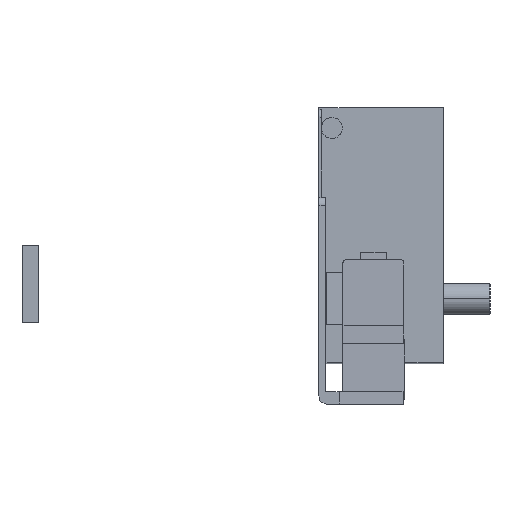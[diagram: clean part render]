
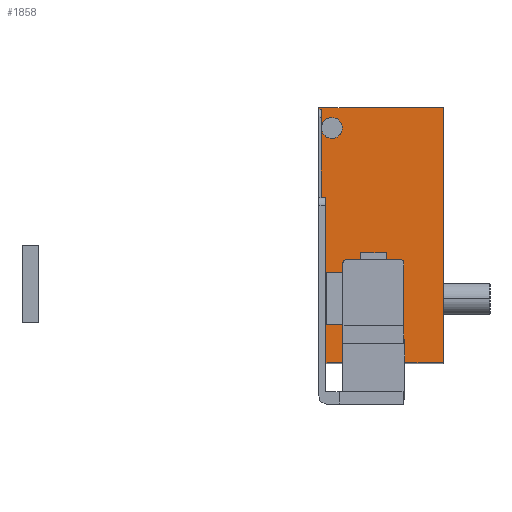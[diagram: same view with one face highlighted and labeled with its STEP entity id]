
A CAD part, front view. The second image highlights one B-rep face of the part: STEP entity #1858.
In plain terms, the highlighted planar face has unit normal (0, -1, 0.007).
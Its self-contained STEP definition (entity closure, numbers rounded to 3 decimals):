
#64 = CARTESIAN_POINT ( 'NONE',  ( 25.75, 620.942, -31.446 ) ) ;
#65 = CARTESIAN_POINT ( 'NONE',  ( 26.336, 620.942, -31.446 ) ) ;
#66 = CARTESIAN_POINT ( 'NONE',  ( 26.75, 620.94, -31.86 ) ) ;
#67 = CARTESIAN_POINT ( 'NONE',  ( 26.75, 620.936, -32.446 ) ) ;
#68 = CARTESIAN_POINT ( 'NONE',  ( 7.25, 620.936, -32.446 ) ) ;
#69 = CARTESIAN_POINT ( 'NONE',  ( 7.25, 620.94, -31.86 ) ) ;
#70 = CARTESIAN_POINT ( 'NONE',  ( 7.664, 620.942, -31.446 ) ) ;
#71 = CARTESIAN_POINT ( 'NONE',  ( 8.25, 620.942, -31.446 ) ) ;
#74 = CARTESIAN_POINT ( 'NONE',  ( 8., 620.841, -46.626 ) ) ;
#75 = DIRECTION ( 'NONE',  ( 0., -0.007, -1. ) ) ;
#76 = CARTESIAN_POINT ( 'NONE',  ( 2.5, 620.988, -24.626 ) ) ;
#77 = DIRECTION ( 'NONE',  ( -1., 0., 0. ) ) ;
#78 = CARTESIAN_POINT ( 'NONE',  ( 0., 620.841, -46.626 ) ) ;
#79 = DIRECTION ( 'NONE',  ( 0., 0.007, 1. ) ) ;
#80 = CARTESIAN_POINT ( 'NONE',  ( 7.25, 620.908, -36.636 ) ) ;
#81 = DIRECTION ( 'NONE',  ( 1., 0., 0. ) ) ;
#82 = CARTESIAN_POINT ( 'NONE',  ( 38.8, 620.908, -36.636 ) ) ;
#83 = DIRECTION ( 'NONE',  ( 1., 0., 0. ) ) ;
#84 = CARTESIAN_POINT ( 'NONE',  ( 38.8, 621.439, 42.729 ) ) ;
#85 = DIRECTION ( 'NONE',  ( -1., 0., 0. ) ) ;
#86 = CARTESIAN_POINT ( 'NONE',  ( 0., 620.841, -46.626 ) ) ;
#87 = DIRECTION ( 'NONE',  ( 0., 0.007, 1. ) ) ;
#88 = CARTESIAN_POINT ( 'NONE',  ( 2.5, 621.095, -8.627 ) ) ;
#89 = DIRECTION ( 'NONE',  ( -1., 0., 0. ) ) ;
#378 = CARTESIAN_POINT ( 'NONE',  ( 38.8, 620.841, -46.626 ) ) ;
#379 = DIRECTION ( 'NONE',  ( 0., 0.007, 1. ) ) ;
#430 = CARTESIAN_POINT ( 'NONE',  ( 26.75, 620.942, -31.446 ) ) ;
#431 = DIRECTION ( 'NONE',  ( -1., 0., 0. ) ) ;
#499 = CARTESIAN_POINT ( 'NONE',  ( 7.25, 620.936, -32.446 ) ) ;
#520 = CARTESIAN_POINT ( 'NONE',  ( 26.75, 620.908, -36.636 ) ) ;
#579 = CARTESIAN_POINT ( 'NONE',  ( 7.25, 620.908, -36.636 ) ) ;
#598 = CARTESIAN_POINT ( 'NONE',  ( 8.25, 620.942, -31.446 ) ) ;
#698 = LINE ( 'NONE', #74, #699 ) ;
#699 = VECTOR ( 'NONE', #75, 1000. ) ;
#700 = LINE ( 'NONE', #76, #701 ) ;
#701 = VECTOR ( 'NONE', #77, 1000. ) ;
#702 = LINE ( 'NONE', #78, #703 ) ;
#703 = VECTOR ( 'NONE', #79, 1000. ) ;
#704 = LINE ( 'NONE', #80, #705 ) ;
#705 = VECTOR ( 'NONE', #81, 1000. ) ;
#706 = LINE ( 'NONE', #82, #707 ) ;
#707 = VECTOR ( 'NONE', #83, 1000. ) ;
#708 = LINE ( 'NONE', #84, #709 ) ;
#709 = VECTOR ( 'NONE', #85, 1000. ) ;
#710 = LINE ( 'NONE', #86, #711 ) ;
#711 = VECTOR ( 'NONE', #87, 1000. ) ;
#712 = LINE ( 'NONE', #88, #713 ) ;
#713 = VECTOR ( 'NONE', #89, 1000. ) ;
#906 = LINE ( 'NONE', #378, #907 ) ;
#907 = VECTOR ( 'NONE', #379, 1000. ) ;
#950 = LINE ( 'NONE', #430, #951 ) ;
#951 = VECTOR ( 'NONE', #431, 1000. ) ;
#1060 = CARTESIAN_POINT ( 'NONE',  ( 0., 621.095, -8.627 ) ) ;
#1062 = CARTESIAN_POINT ( 'NONE',  ( 0., 621.439, 42.729 ) ) ;
#1063 = CARTESIAN_POINT ( 'NONE',  ( 0., 620.908, -36.636 ) ) ;
#1069 = CARTESIAN_POINT ( 'NONE',  ( 0., 620.988, -24.626 ) ) ;
#1074 = CARTESIAN_POINT ( 'NONE',  ( 8., 620.988, -24.626 ) ) ;
#1075 = CARTESIAN_POINT ( 'NONE',  ( 38.8, 621.439, 42.729 ) ) ;
#1077 = CARTESIAN_POINT ( 'NONE',  ( 8., 621.095, -8.627 ) ) ;
#1083 = CARTESIAN_POINT ( 'NONE',  ( 38.8, 620.908, -36.636 ) ) ;
#1122 = CARTESIAN_POINT ( 'NONE',  ( 26.75, 620.936, -32.446 ) ) ;
#1133 = CARTESIAN_POINT ( 'NONE',  ( 25.75, 620.942, -31.446 ) ) ;
#1342 =( BOUNDED_CURVE ( )  B_SPLINE_CURVE ( 3, ( #64, #65, #66, #67 ),
 .UNSPECIFIED., .F., .F. ) 
 B_SPLINE_CURVE_WITH_KNOTS ( ( 4, 4 ),
 ( 3.142, 4.712 ),
 .UNSPECIFIED. ) 
 CURVE ( )  GEOMETRIC_REPRESENTATION_ITEM ( )  RATIONAL_B_SPLINE_CURVE ( ( 1., 0.805, 0.805, 1. ) ) 
 REPRESENTATION_ITEM ( '' )  );
#1350 =( BOUNDED_CURVE ( )  B_SPLINE_CURVE ( 3, ( #68, #69, #70, #71 ),
 .UNSPECIFIED., .F., .F. ) 
 B_SPLINE_CURVE_WITH_KNOTS ( ( 4, 4 ),
 ( 4.712, 6.283 ),
 .UNSPECIFIED. ) 
 CURVE ( )  GEOMETRIC_REPRESENTATION_ITEM ( )  RATIONAL_B_SPLINE_CURVE ( ( 1., 0.805, 0.805, 1. ) ) 
 REPRESENTATION_ITEM ( '' )  );
#1402 = EDGE_CURVE ( 'NONE', #4461, #4607, #3260, .T. ) ;
#1408 = EDGE_CURVE ( 'NONE', #4520, #4440, #3269, .T. ) ;
#1858 = ADVANCED_FACE ( 'NONE', ( #3770 ), #5115, .T. ) ;
#2055 = EDGE_CURVE ( 'NONE', #4616, #4607, #1342, .T. ) ;
#2056 = EDGE_CURVE ( 'NONE', #4440, #4539, #1350, .T. ) ;
#2058 = EDGE_CURVE ( 'NONE', #4567, #4565, #698, .T. ) ;
#2059 = EDGE_CURVE ( 'NONE', #4565, #4560, #700, .T. ) ;
#2060 = EDGE_CURVE ( 'NONE', #4555, #4560, #702, .T. ) ;
#2061 = EDGE_CURVE ( 'NONE', #4555, #4520, #704, .T. ) ;
#2062 = EDGE_CURVE ( 'NONE', #4461, #4572, #706, .T. ) ;
#2063 = EDGE_CURVE ( 'NONE', #4566, #4554, #708, .T. ) ;
#2064 = EDGE_CURVE ( 'NONE', #4553, #4554, #710, .T. ) ;
#2065 = EDGE_CURVE ( 'NONE', #4567, #4553, #712, .T. ) ;
#2186 = EDGE_CURVE ( 'NONE', #4572, #4566, #906, .T. ) ;
#2210 = EDGE_CURVE ( 'NONE', #4616, #4539, #950, .T. ) ;
#2388 = AXIS2_PLACEMENT_3D ( 'NONE', #5116, #5117, #5118 ) ;
#2736 = ORIENTED_EDGE ( 'NONE', *, *, #2058, .T. ) ;
#2737 = ORIENTED_EDGE ( 'NONE', *, *, #2059, .T. ) ;
#2738 = ORIENTED_EDGE ( 'NONE', *, *, #2060, .F. ) ;
#2739 = ORIENTED_EDGE ( 'NONE', *, *, #2061, .T. ) ;
#2740 = ORIENTED_EDGE ( 'NONE', *, *, #1408, .T. ) ;
#2741 = ORIENTED_EDGE ( 'NONE', *, *, #2056, .T. ) ;
#2742 = ORIENTED_EDGE ( 'NONE', *, *, #2210, .F. ) ;
#2743 = ORIENTED_EDGE ( 'NONE', *, *, #2055, .T. ) ;
#2744 = ORIENTED_EDGE ( 'NONE', *, *, #1402, .F. ) ;
#2745 = ORIENTED_EDGE ( 'NONE', *, *, #2062, .T. ) ;
#2746 = ORIENTED_EDGE ( 'NONE', *, *, #2186, .T. ) ;
#2747 = ORIENTED_EDGE ( 'NONE', *, *, #2063, .T. ) ;
#2748 = ORIENTED_EDGE ( 'NONE', *, *, #2064, .F. ) ;
#2749 = ORIENTED_EDGE ( 'NONE', *, *, #2065, .F. ) ;
#3089 = EDGE_LOOP ( 'NONE', ( #2736, #2737, #2738, #2739, #2740, #2741, #2742, #2743, #2744, #2745, #2746, #2747, #2748, #2749 ) ) ;
#3260 = LINE ( 'NONE', #4262, #3261 ) ;
#3261 = VECTOR ( 'NONE', #4260, 1000. ) ;
#3269 = LINE ( 'NONE', #4215, #3271 ) ;
#3271 = VECTOR ( 'NONE', #4212, 1000. ) ;
#3770 = FACE_OUTER_BOUND ( 'NONE', #3089, .T. ) ;
#4212 = DIRECTION ( 'NONE',  ( 0., 0.007, 1. ) ) ;
#4215 = CARTESIAN_POINT ( 'NONE',  ( 7.25, 621.042, -16.581 ) ) ;
#4260 = DIRECTION ( 'NONE',  ( 0., 0.007, 1. ) ) ;
#4262 = CARTESIAN_POINT ( 'NONE',  ( 26.75, 621.042, -16.581 ) ) ;
#4440 = VERTEX_POINT ( 'NONE', #499 ) ;
#4461 = VERTEX_POINT ( 'NONE', #520 ) ;
#4520 = VERTEX_POINT ( 'NONE', #579 ) ;
#4539 = VERTEX_POINT ( 'NONE', #598 ) ;
#4553 = VERTEX_POINT ( 'NONE', #1060 ) ;
#4554 = VERTEX_POINT ( 'NONE', #1062 ) ;
#4555 = VERTEX_POINT ( 'NONE', #1063 ) ;
#4560 = VERTEX_POINT ( 'NONE', #1069 ) ;
#4565 = VERTEX_POINT ( 'NONE', #1074 ) ;
#4566 = VERTEX_POINT ( 'NONE', #1075 ) ;
#4567 = VERTEX_POINT ( 'NONE', #1077 ) ;
#4572 = VERTEX_POINT ( 'NONE', #1083 ) ;
#4607 = VERTEX_POINT ( 'NONE', #1122 ) ;
#4616 = VERTEX_POINT ( 'NONE', #1133 ) ;
#5115 = PLANE ( 'NONE',  #2388 ) ;
#5116 = CARTESIAN_POINT ( 'NONE',  ( 38.8, 620.841, -46.626 ) ) ;
#5117 = DIRECTION ( 'NONE',  ( 0., -1., 0.007 ) ) ;
#5118 = DIRECTION ( 'NONE',  ( 0., 0.007, 1. ) ) ;
